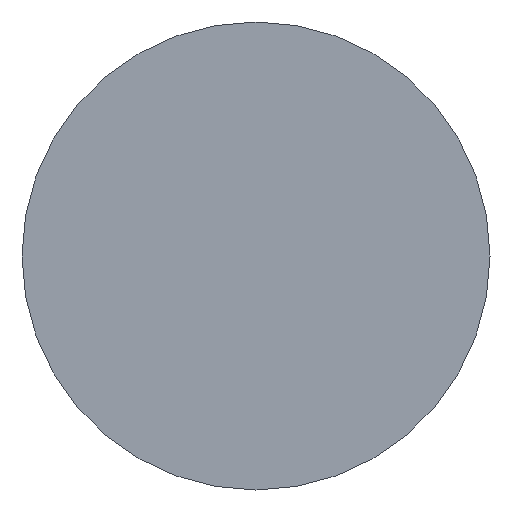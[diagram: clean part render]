
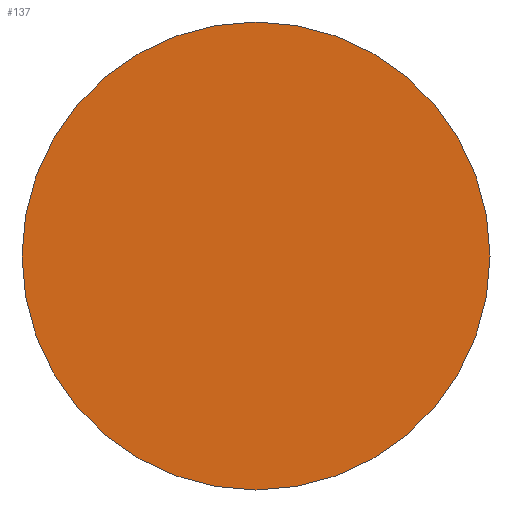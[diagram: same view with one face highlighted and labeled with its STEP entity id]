
A CAD part, front view. The second image highlights one B-rep face of the part: STEP entity #137.
In plain terms, the highlighted planar face has unit normal (0, -1, 0).
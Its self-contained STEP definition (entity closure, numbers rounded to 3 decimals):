
#10 = CIRCLE ( 'NONE', #449, 20. ) ;
#62 = CARTESIAN_POINT ( 'NONE',  ( 0., 0., 0. ) ) ;
#78 = CARTESIAN_POINT ( 'NONE',  ( -20., 0., 0. ) ) ;
#133 = EDGE_CURVE ( 'NONE', #1230, #634, #832, .T. ) ;
#137 = ADVANCED_FACE ( 'NONE', ( #390 ), #153, .F. ) ;
#144 = DIRECTION ( 'NONE',  ( 0., -1., 0. ) ) ;
#145 = AXIS2_PLACEMENT_3D ( 'NONE', #62, #375, #468 ) ;
#153 = PLANE ( 'NONE',  #145 ) ;
#220 = DIRECTION ( 'NONE',  ( 1., 0., 0. ) ) ;
#235 = EDGE_CURVE ( 'NONE', #634, #1230, #10, .T. ) ;
#375 = DIRECTION ( 'NONE',  ( 0., 1., 0. ) ) ;
#390 = FACE_OUTER_BOUND ( 'NONE', #1188, .T. ) ;
#445 = CARTESIAN_POINT ( 'NONE',  ( 0., 0., 0. ) ) ;
#449 = AXIS2_PLACEMENT_3D ( 'NONE', #445, #845, #1140 ) ;
#468 = DIRECTION ( 'NONE',  ( -1., 0., 0. ) ) ;
#547 = CARTESIAN_POINT ( 'NONE',  ( 0., 0., 0. ) ) ;
#634 = VERTEX_POINT ( 'NONE', #78 ) ;
#666 = CARTESIAN_POINT ( 'NONE',  ( 20., 0., 0. ) ) ;
#832 = CIRCLE ( 'NONE', #1028, 20. ) ;
#845 = DIRECTION ( 'NONE',  ( 0., -1., 0. ) ) ;
#1028 = AXIS2_PLACEMENT_3D ( 'NONE', #547, #144, #220 ) ;
#1083 = ORIENTED_EDGE ( 'NONE', *, *, #235, .T. ) ;
#1140 = DIRECTION ( 'NONE',  ( 1., 0., 0. ) ) ;
#1188 = EDGE_LOOP ( 'NONE', ( #1213, #1083 ) ) ;
#1213 = ORIENTED_EDGE ( 'NONE', *, *, #133, .T. ) ;
#1230 = VERTEX_POINT ( 'NONE', #666 ) ;
